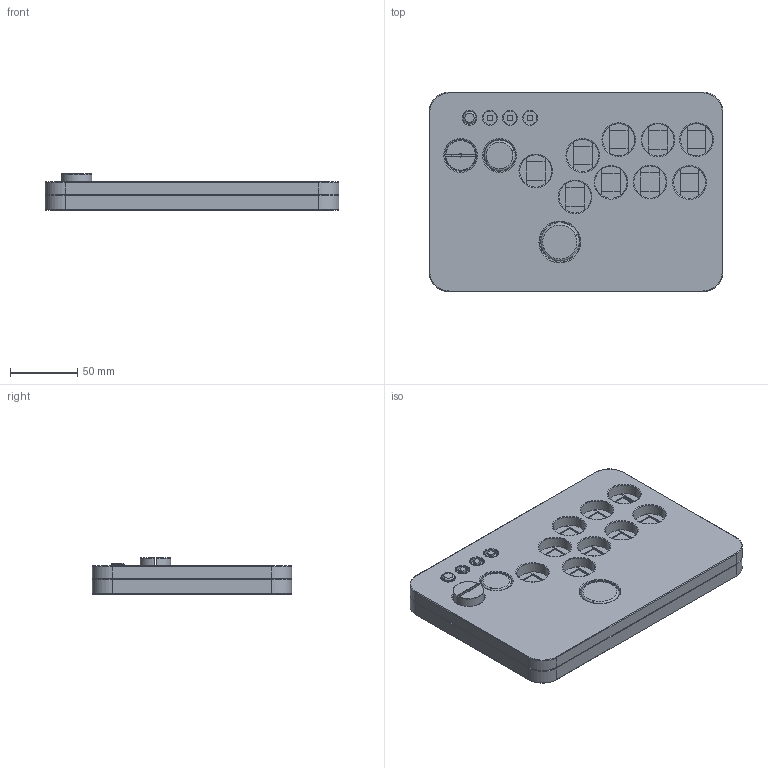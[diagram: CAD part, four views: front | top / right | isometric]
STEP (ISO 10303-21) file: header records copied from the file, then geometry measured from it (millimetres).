
FILE_DESCRIPTION (( 'STEP AP214' ), '1' );
FILE_NAME ('Stickless-V2.STEP', '2022-09-05T19:42:41', ( '' ), ( '' ), 'SwSTEP 2.0', 'SolidWorks 2021', '' );
FILE_SCHEMA (( 'AUTOMOTIVE_DESIGN' ));
Length unit declared in the file: millimetre
Products named in the file (12): Mechanical-Key-Cap-Small^Assem1; Tactile-Button-Backplate^Assem1; Mechanical-Key-Cap-Big^Assem1; Type-C-Board-Treedix; Stickless-V2; Tactile-Push-Button; Part4^Assem1; Bottom-Plate^Assem1; USB-C board JRC-B023; JRC-B0223-Type-C-Securing-Bracket^Assem1; Sanding-Tool^Assem1; Front Plate - Base
Assembly tree (14 placements, depth 2):
  Stickless-V2
    Front Plate - Base
    Type-C-Board-Treedix
    Bottom-Plate^Assem1
    Tactile-Push-Button  x4
    Tactile-Button-Backplate^Assem1
    Sanding-Tool^Assem1
    Mechanical-Key-Cap-Small^Assem1
    Part4^Assem1
    Mechanical-Key-Cap-Big^Assem1
    USB-C board JRC-B023
    JRC-B0223-Type-C-Securing-Bracket^Assem1
Bounding box: 218 x 148 x 26.9 mm (x, y, z)
Volume: 255364.6 mm3; surface area: 179472.6 mm2
Topology: 51 solids, 51 shells, 2251 faces, 5534 edges, 3422 vertices
Faces by surface type: plane 1471, cylinder 413, bspline 192, cone 107, torus 66, sphere 2
Entity records: 80011 total; most frequent: CARTESIAN_POINT 14364, ORIENTED_EDGE 10464, DIRECTION 9835, EDGE_CURVE 5232, LINE 3685, VECTOR 3685, VERTEX_POINT 3230, AXIS2_PLACEMENT_3D 3075
